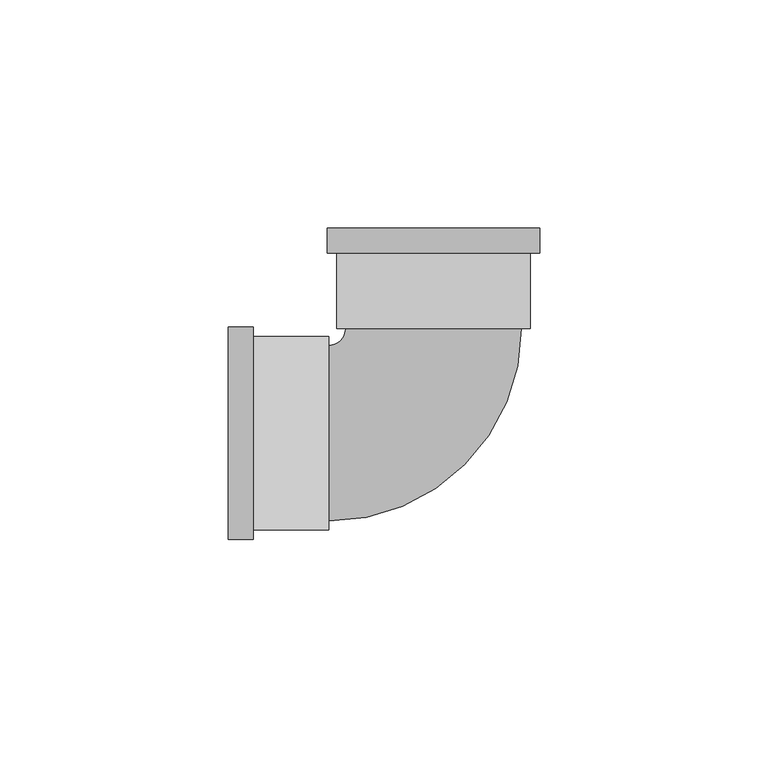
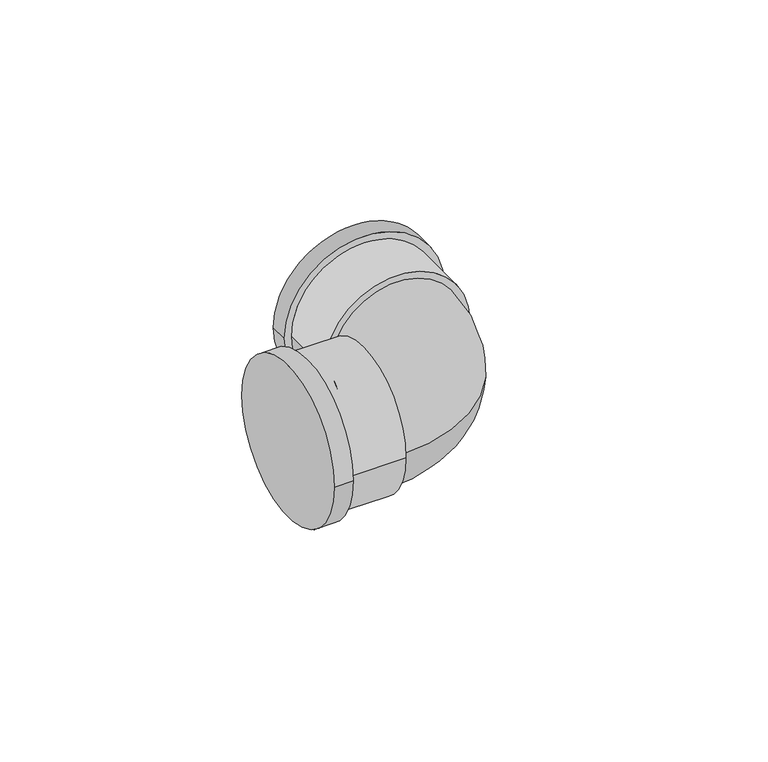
"""IFC4 building model written with IfcOpenShell, lengths in millimetres: pipe fitting geometry, Cotovelo - PVC - CW : Padrão."""

from ifc_helpers import new_model, si_unit, point, frame, origin, place, context, project, spatial, circle_curve, ellipse_curve, trimmed, source, transform, mapped, element, save
from ifc_brep_helpers import plane_surface, cylinder_surface, revolved_surface, advanced_brep


def pipe_fitting_50f5d43d(model_context):
    return source(origin(), model_context, "Body", "AdvancedBrep", [
        advanced_brep(
        [(-45.0003262, -23.2925, 0.0), (-45.0003262, 23.2925, 0.0), (-39.5003262, -23.2925, 0.0), (-39.5003262, 23.2925, 0.0), (-39.5003262, -21.175, 0.0), (-39.5003262, 21.175, 0.0), (-23.0003262, 21.175, 0.0), (-23.0003262, -21.175, 0.0), (-23.0003262, -19.25, 0.0), (-23.0003262, 19.25, 0.0), (-19.2503262, 23.0000532, 0.0), (19.2496738, 23.0005992, 0.0), (21.1746738, 23.0006266, 0.0), (-21.1753262, 23.0000259, 0.0), (-23.2931383, 44.9999958, 0.0), (23.2918617, 45.0006566, 0.0), (21.1744397, 39.5006266, 0.0), (-21.1755602, 39.5000259, 0.0), (-23.2930602, 39.4999958, 0.0), (23.2919397, 39.5006566, 0.0)],
        [
            (0, 1, circle_curve(frame((-45.0003262, 0.0, 0.0), z_axis=(-1.0, 0.0, 0.0), x_axis=(0.0, 1.0, 0.0)), 23.2925)),
            (1, 0, circle_curve(frame((-45.0003262, 0.0, 0.0), z_axis=(-1.0, 0.0, 0.0), x_axis=(0.0, 1.0, 0.0)), 23.2925)),
            (2, 3, circle_curve(frame((-39.5003262, 0.0, 0.0), z_axis=(1.0, 0.0, 0.0), x_axis=(0.0, 1.0, 0.0)), 23.2925)),
            (3, 2, circle_curve(frame((-39.5003262, 0.0, 0.0), z_axis=(1.0, 0.0, 0.0), x_axis=(0.0, 1.0, 0.0)), 23.2925)),
            (4, 5, circle_curve(frame((-39.5003262, 0.0, 0.0), z_axis=(-1.0, 0.0, 0.0), x_axis=(0.0, -1.0, 0.0)), 21.175)),
            (5, 4, circle_curve(frame((-39.5003262, 0.0, 0.0), z_axis=(-1.0, 0.0, 0.0), x_axis=(0.0, -1.0, 0.0)), 21.175)),
            (0, 2),
            (3, 1),
            (6, 7, circle_curve(frame((-23.0003262, 0.0, 0.0), z_axis=(1.0, 0.0, 0.0), x_axis=(0.0, -1.0, 0.0)), 21.175)),
            (7, 6, circle_curve(frame((-23.0003262, 0.0, 0.0), z_axis=(1.0, 0.0, 0.0), x_axis=(0.0, -1.0, 0.0)), 21.175)),
            (8, 9, circle_curve(frame((-23.0003262, 0.0, 0.0), z_axis=(-1.0, 0.0, 0.0), x_axis=(0.0, 1.0, 0.0)), 19.25)),
            (9, 8, circle_curve(frame((-23.0003262, 0.0, 0.0), z_axis=(-1.0, 0.0, 0.0), x_axis=(0.0, 1.0, 0.0)), 19.25)),
            (6, 5),
            (4, 7),
            (10, 9, circle_curve(frame((-23.0003262, 23.0, 0.0), z_axis=(0.0, 0.0, -1.0), x_axis=(0.0, -1.0, 0.0)), 3.75)),
            (8, 11, circle_curve(frame((-23.0003262, 23.0, 0.0), z_axis=(0.0, 0.0, 1.0), x_axis=(0.0, -1.0, 0.0)), 42.25)),
            (11, 10, circle_curve(frame((-0.0003262, 23.0003262, 0.0), z_axis=(1.4183422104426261e-05, -0.9999999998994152, 0.0), x_axis=(-0.9999999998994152, -1.4183422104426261e-05, 0.0)), 19.25)),
            (10, 11, circle_curve(frame((-0.0003262, 23.0003262, 0.0), z_axis=(1.4183422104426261e-05, -0.9999999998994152, 0.0), x_axis=(-0.9999999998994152, -1.4183422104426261e-05, 0.0)), 19.25)),
            (12, 13, circle_curve(frame((-0.0003262, 23.0003262, 0.0), z_axis=(1.41834225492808e-05, -0.9999999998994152, 0.0), x_axis=(-0.9999999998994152, -1.41834225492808e-05, 0.0)), 21.175)),
            (13, 12, circle_curve(frame((-0.0003262, 23.0003262, 0.0), z_axis=(1.41834225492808e-05, -0.9999999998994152, 0.0), x_axis=(-0.9999999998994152, -1.41834225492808e-05, 0.0)), 21.175)),
            (14, 15, circle_curve(frame((-0.0006383, 45.0003262, 0.0), z_axis=(-1.4183422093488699e-05, 0.9999999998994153, 0.0), x_axis=(0.9999999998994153, 1.4183422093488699e-05, 0.0)), 23.2925)),
            (15, 14, circle_curve(frame((-0.0006383, 45.0003262, 0.0), z_axis=(-1.4183422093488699e-05, 0.9999999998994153, 0.0), x_axis=(0.9999999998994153, 1.4183422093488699e-05, 0.0)), 23.2925)),
            (12, 16),
            (16, 17, circle_curve(frame((-0.0005602, 39.5003262, 0.0), z_axis=(1.41834225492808e-05, -0.9999999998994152, 0.0), x_axis=(-0.9999999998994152, -1.41834225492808e-05, 0.0)), 21.175)),
            (17, 13),
            (17, 16, circle_curve(frame((-0.0005602, 39.5003262, 0.0), z_axis=(1.41834225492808e-05, -0.9999999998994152, 0.0), x_axis=(-0.9999999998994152, -1.41834225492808e-05, 0.0)), 21.175)),
            (18, 19, circle_curve(frame((-0.0005602, 39.5003262, 0.0), z_axis=(1.4183422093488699e-05, -0.9999999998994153, 0.0), x_axis=(0.9999999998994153, 1.4183422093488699e-05, 0.0)), 23.2925)),
            (19, 18, circle_curve(frame((-0.0005602, 39.5003262, 0.0), z_axis=(1.4183422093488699e-05, -0.9999999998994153, 0.0), x_axis=(0.9999999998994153, 1.4183422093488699e-05, 0.0)), 23.2925)),
            (14, 18),
            (19, 15),
        ],
        [
            plane_surface(frame((-45.0003262, 0.0, 0.0), z_axis=(-1.0, 0.0, 0.0), x_axis=(0.0, 0.0, 1.0))),
            plane_surface(frame((-39.5003262, 0.0, 0.0), z_axis=(1.0, 0.0, 0.0), x_axis=(0.0, 0.0, 1.0))),
            cylinder_surface(frame((-45.0003262, 0.0, 0.0), z_axis=(-1.0, 0.0, 0.0), x_axis=(0.0, 1.0, 0.0)), 23.2925),
            plane_surface(frame((-23.0003262, 0.0, 0.0), z_axis=(1.0, 0.0, 0.0), x_axis=(0.0, 0.0, 1.0))),
            cylinder_surface(frame((-23.0003262, 0.0, 0.0), z_axis=(1.0, 0.0, 0.0), x_axis=(0.0, -1.0, 0.0)), 21.175),
            revolved_surface(trimmed(ellipse_curve(frame((-23.0003262, 0.0, 0.0), z_axis=(-1.0, 0.0, 0.0), x_axis=(0.0, 1.0, 0.0)), 19.25, 19.25), [point((-23.0003262, -19.25, 0.0))], [point((-23.0003262, 19.25, 0.0))], True, "CARTESIAN"), (-23.0003262, 23.0, 0.0), (0.0, 0.0, 1.0)),
            revolved_surface(trimmed(ellipse_curve(frame((-23.0003262, 0.0, 0.0), z_axis=(-1.0, 0.0, 0.0), x_axis=(0.0, 1.0, 0.0)), 19.25, 19.25), [point((-23.0003262, 19.25, 0.0))], [point((-23.0003262, -19.25, 0.0))], True, "CARTESIAN"), (-23.0003262, 23.0, 0.0), (0.0, 0.0, 1.0)),
            plane_surface(frame((-0.0003262, 23.0003262, 0.0), z_axis=(1.41834225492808e-05, -0.9999999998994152, 0.0), x_axis=(0.0, 0.0, 1.0))),
            plane_surface(frame((-0.0006383, 45.0003262, 0.0), z_axis=(-1.41834225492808e-05, 0.9999999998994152, 0.0), x_axis=(0.0, 0.0, 1.0))),
            cylinder_surface(frame((-0.0003262, 23.0003262, 0.0), z_axis=(1.41834225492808e-05, -0.9999999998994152, 0.0), x_axis=(-0.9999999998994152, -1.41834225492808e-05, 0.0)), 21.175),
            plane_surface(frame((-0.0005602, 39.5003262, 0.0), z_axis=(1.4183422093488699e-05, -0.9999999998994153, 0.0), x_axis=(0.0, 0.0, 1.0))),
            cylinder_surface(frame((-0.0006383, 45.0003262, 0.0), z_axis=(-1.4183422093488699e-05, 0.9999999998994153, 0.0), x_axis=(0.9999999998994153, 1.4183422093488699e-05, 0.0)), 23.2925),
        ],
        [
            (0, [[1, 2]]),
            (1, [[3, 4], [5, 6]]),
            (2, [[-1, 7, -4, 8]]),
            (2, [[-2, -8, -3, -7]]),
            (3, [[9, 10], [11, 12]]),
            (4, [[-9, 13, -5, 14]]),
            (4, [[-10, -14, -6, -13]]),
            (5, [[15, -11, 16, 17]]),
            (6, [[-15, 18, -16, -12]]),
            (7, [[19, 20], [-17, -18]]),
            (8, [[21, 22]]),
            (9, [[-19, 23, 24, 25]]),
            (9, [[-20, -25, 26, -23]]),
            (10, [[27, 28], [-24, -26]]),
            (11, [[-21, 29, -28, 30]]),
            (11, [[-22, -30, -27, -29]]),
        ],
    ),
    ])


if __name__ == "__main__":
    model = new_model("IFC4")
    model_context = context("Model", 3, world=origin())
    ifc_project = project(units=[si_unit("LENGTHUNIT", "METRE", prefix="MILLI")], contexts=[model_context])
    site = spatial("IfcSite", under=ifc_project)
    building = spatial("IfcBuilding", under=site)
    placement = place(None, origin())
    pipe_fitting_shape = pipe_fitting_50f5d43d(model_context)
    element("IfcPipeFitting", 1, ObjectType="Cotovelo - PVC - CW : Padrão", at=placement, inside=building, context=model_context, shape_type="MappedRepresentation", body=[
        mapped(pipe_fitting_shape, transform((0.0, 0.0, 0.0), x_axis=(1.0, 0.0, 0.0), y_axis=(0.0, 1.0, 0.0), z_axis=(0.0, 0.0, 1.0))),
    ])
    save(model, "model.ifc")
